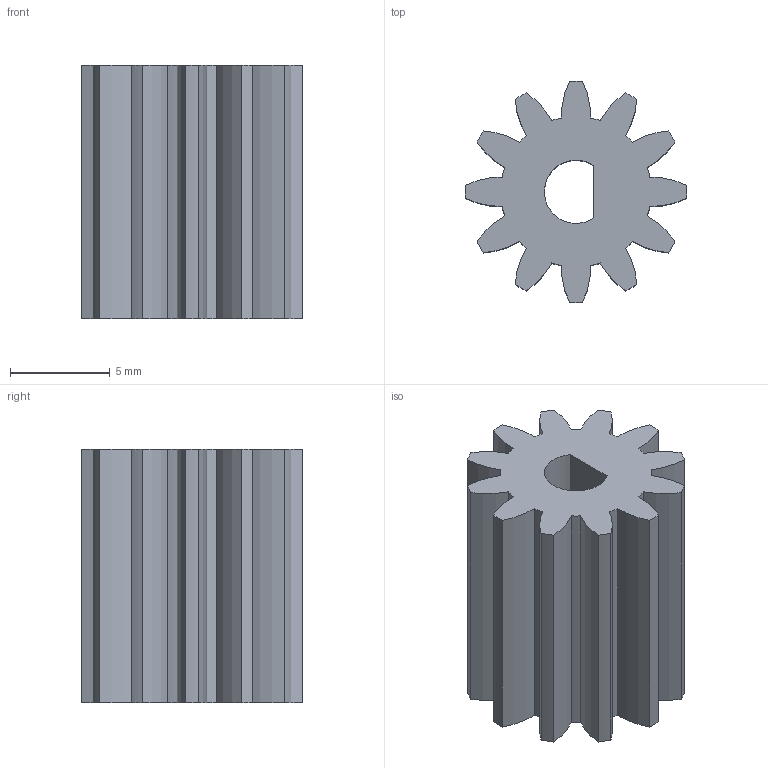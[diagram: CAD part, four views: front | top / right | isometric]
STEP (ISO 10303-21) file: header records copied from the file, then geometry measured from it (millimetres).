
FILE_DESCRIPTION((''),'2;1');
FILE_NAME('C:\Documents and Settings\Powderly\Desktop\GP2Pinion1.stp','2005-08-09T02:13:16',('Powderly'),(''),'Autodesk Inventor 10','Autodesk Inventor 10','');
FILE_SCHEMA(('AUTOMOTIVE_DESIGN { 1 0 10303 214 1 1 1 1 }'));
Length unit declared in the file: inch
Products named in the file (1): 32, 0
Bounding box: 11.11 x 11.11 x 12.7 mm (x, y, z)
Volume: 814.1 mm3; surface area: 1005.6 mm2
Topology: 1 solids, 1 shells, 52 faces, 150 edges, 100 vertices
Faces by surface type: cylinder 48, plane 3, bspline 1
Entity records: 1814 total; most frequent: DIRECTION 352, CARTESIAN_POINT 320, ORIENTED_EDGE 300, AXIS2_PLACEMENT_3D 150, EDGE_CURVE 150, VERTEX_POINT 100, CIRCLE 98, EDGE_LOOP 54
